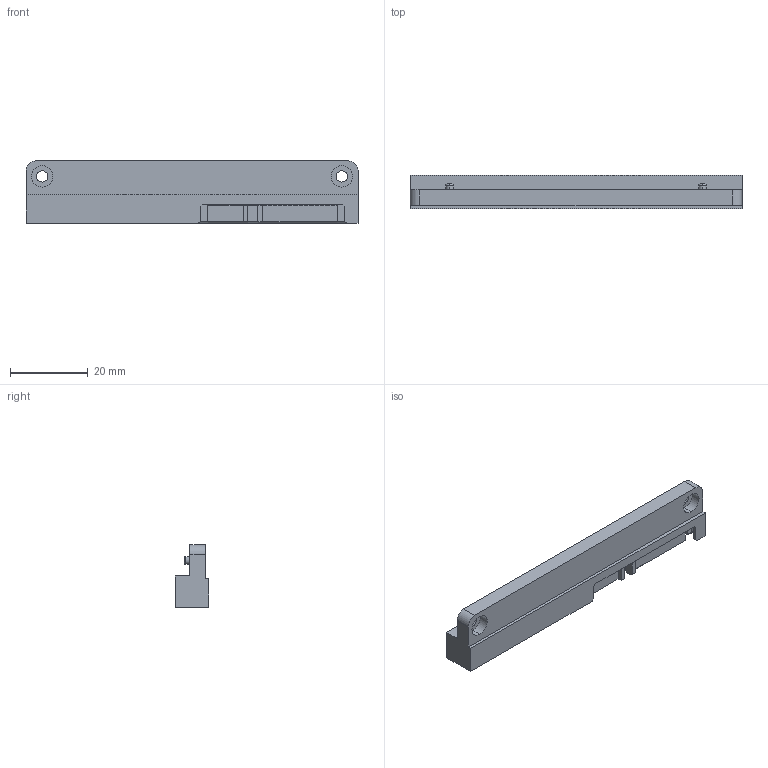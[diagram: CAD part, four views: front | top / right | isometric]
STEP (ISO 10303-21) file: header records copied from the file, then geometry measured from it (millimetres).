
FILE_DESCRIPTION (( 'STEP AP214' ), '1' );
FILE_NAME ('SATA CONNECTOR HOUSING - ACOUSTIC SHOCK COMBO_ORIGINAL^SURROGATE - ACOUSTIC SHOCK COMBO.STEP', '2024-11-14T18:45:16', ( '' ), ( '' ), 'SwSTEP 2.0', 'SolidWorks 2022', '' );
FILE_SCHEMA (( 'AUTOMOTIVE_DESIGN' ));
Length unit declared in the file: millimetre
Products named in the file (1): SATA CONNECTOR HOUSING - ACOUSTIC SHOCK COMBO_ORIGINAL^SURROGATE - ACOUSTIC SHOCK COMBO
Bounding box: 85.31 x 8.6 x 16 mm (x, y, z)
Volume: 7670.8 mm3; surface area: 4907 mm2
Topology: 1 solids, 1 shells, 115 faces, 380 edges, 272 vertices
Faces by surface type: plane 75, cylinder 32, torus 4, cone 4
Entity records: 4533 total; most frequent: CARTESIAN_POINT 1383, ORIENTED_EDGE 760, DIRECTION 498, EDGE_CURVE 380, VERTEX_POINT 272, LINE 190, VECTOR 190, AXIS2_PLACEMENT_3D 154
